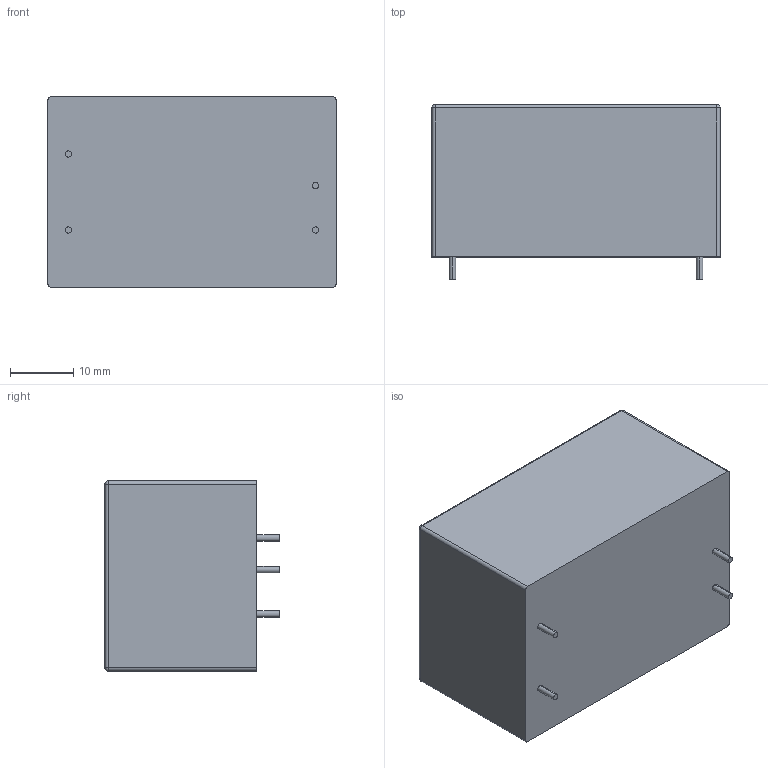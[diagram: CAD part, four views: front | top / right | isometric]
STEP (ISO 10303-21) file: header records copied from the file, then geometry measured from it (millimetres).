
FILE_DESCRIPTION (( 'STEP AP214' ), '1' );
FILE_NAME ('VTX-214-010-2xx.STEP', '2024-03-21T15:41:28', ( '' ), ( '' ), 'SwSTEP 2.0', 'SolidWorks 2022', '' );
FILE_SCHEMA (( 'AUTOMOTIVE_DESIGN' ));
Length unit declared in the file: millimetre
Products named in the file (1): VTX-214-010-2xx
Bounding box: 45.5 x 27.5 x 30 mm (x, y, z)
Volume: 32757.8 mm3; surface area: 6344.6 mm2
Topology: 1 solids, 1 shells, 30 faces, 64 edges, 36 vertices
Faces by surface type: cylinder 16, plane 10, sphere 4
Entity records: 957 total; most frequent: DIRECTION 154, CARTESIAN_POINT 127, ORIENTED_EDGE 120, AXIS2_PLACEMENT_3D 63, EDGE_CURVE 60, VERTEX_POINT 36, EDGE_LOOP 34, CIRCLE 32
